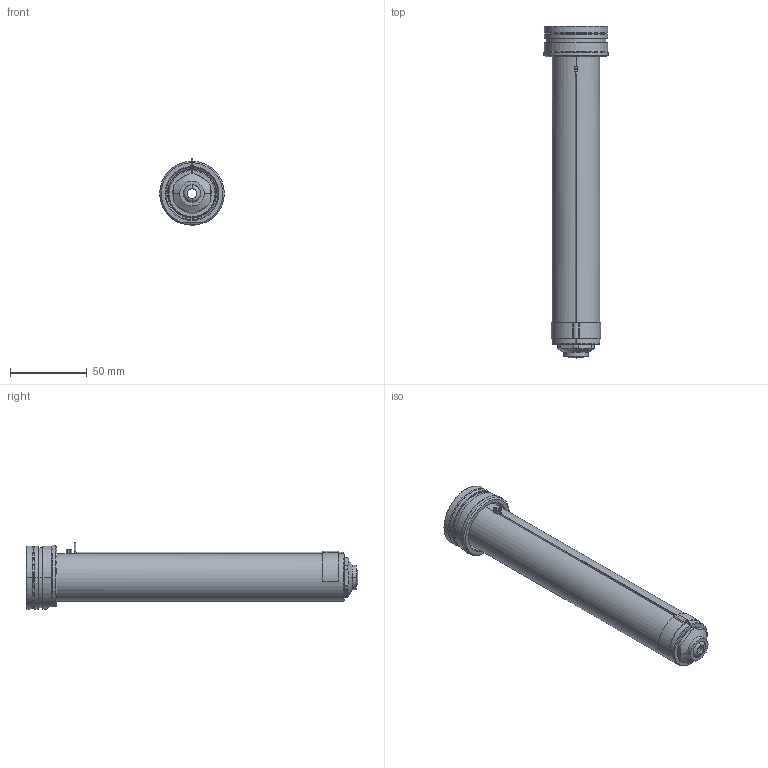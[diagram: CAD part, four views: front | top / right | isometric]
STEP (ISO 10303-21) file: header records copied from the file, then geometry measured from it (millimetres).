
FILE_DESCRIPTION((''),'2;1');
FILE_NAME('EO12_VG-BL_WR_200_SW','2024-02-19T13:17:28',('sundharh'),(''),'CREO PARAMETRIC BY PTC INC, 2023154','CREO PARAMETRIC BY PTC INC, 2023154','');
FILE_SCHEMA(('CONFIG_CONTROL_DESIGN'));
Length unit declared in the file: millimetre
Products named in the file (1): EO12_VG-BL_WR_200_SW
Bounding box: 41.85 x 215.8 x 43 mm (x, y, z)
Volume: 143959.2 mm3; surface area: 37288.6 mm2
Topology: 2 solids, 3 shells, 204 faces, 498 edges, 300 vertices
Faces by surface type: cylinder 73, plane 46, cone 39, torus 35, bspline 9, sphere 2
Entity records: 6868 total; most frequent: CARTESIAN_POINT 1964, DIRECTION 1100, ORIENTED_EDGE 988, EDGE_CURVE 494, AXIS2_PLACEMENT_3D 464, VERTEX_POINT 300, CIRCLE 269, EDGE_LOOP 220
